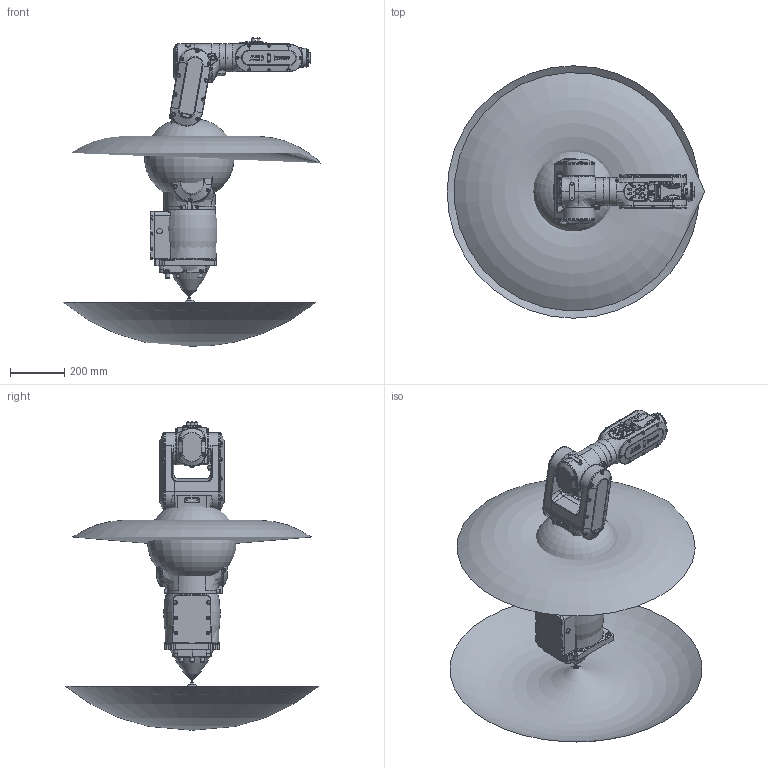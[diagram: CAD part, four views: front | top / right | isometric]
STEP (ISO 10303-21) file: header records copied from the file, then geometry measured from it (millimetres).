
FILE_DESCRIPTION (( 'STEP AP203' ), '1' );
FILE_NAME ('IRB1200GEN2_9kg-710_BTM_OC_00_ASM.STEP', '2025-06-16T05:40:25', ( '' ), ( '' ), 'SwSTEP 2.0', 'SolidWorks 2022', '' );
FILE_SCHEMA (( 'CONFIG_CONTROL_DESIGN' ));
Length unit declared in the file: millimetre
Products named in the file (9): IRB1200GEN2_9kg-710_BTM_OC_00_Link01_CAD; IRB1200GEN2_9kg-710_BTM_OC_00_Working-space; IRB1200GEN2_9kg-710_BTM_OC_00_Link04_CAD; IRB1200GEN2_9kg-710_BTM_OC_00_Link06_CAD; IRB1200GEN2_9kg-710_BTM_OC_00_Link03_CAD; IRB1200GEN2_9kg-710_BTM_OC_00_Link05_CAD; IRB1200GEN2_9kg-710_BTM_OC_00_Link02_CAD; IRB1200GEN2_9kg-710_BTM_OC_00_ASM; IRB1200GEN2_9kg-710_BTM_OC_00_Base_CAD
Assembly tree (8 placements, depth 2):
  IRB1200GEN2_9kg-710_BTM_OC_00_ASM
    IRB1200GEN2_9kg-710_BTM_OC_00_Base_CAD
    IRB1200GEN2_9kg-710_BTM_OC_00_Link01_CAD
    IRB1200GEN2_9kg-710_BTM_OC_00_Link02_CAD
    IRB1200GEN2_9kg-710_BTM_OC_00_Link03_CAD
    IRB1200GEN2_9kg-710_BTM_OC_00_Link04_CAD
    IRB1200GEN2_9kg-710_BTM_OC_00_Link05_CAD
    IRB1200GEN2_9kg-710_BTM_OC_00_Link06_CAD
    IRB1200GEN2_9kg-710_BTM_OC_00_Working-space
Bounding box: 947.63 x 928.22 x 1134.46 mm (x, y, z)
Volume: 176235734.7 mm3; surface area: 4074950 mm2
Topology: 48 solids, 49 shells, 4106 faces, 9893 edges, 6138 vertices
Faces by surface type: plane 1550, bspline 1235, cylinder 811, torus 278, cone 198, sphere 34
Full cylindrical faces by diameter (mm): 2.5 x2, 3.3 x16, 4.2 x4, 5 x2, 5.5 x11, 5.68 x4, 6 x2, 6.8 x4, 7 x76, 9 x64, 9.9 x11, 10 x4, 11.3 x1, 13 x2, 13.5 x4, 14 x8, 15 x4, 18 x3, 20 x4, 20.5 x1, 40 x1, 52.5 x1, 65 x4, 69.5 x1, 94.5 x1, 95 x2, 101.999 x1, 102 x1, 118 x1, 129 x2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
Entity records: 233956 total; most frequent: CARTESIAN_POINT 149218, ORIENTED_EDGE 18608, DIRECTION 14608, EDGE_CURVE 9304, VERTEX_POINT 5943, AXIS2_PLACEMENT_3D 5366, EDGE_LOOP 4803, FACE_OUTER_BOUND 4397
